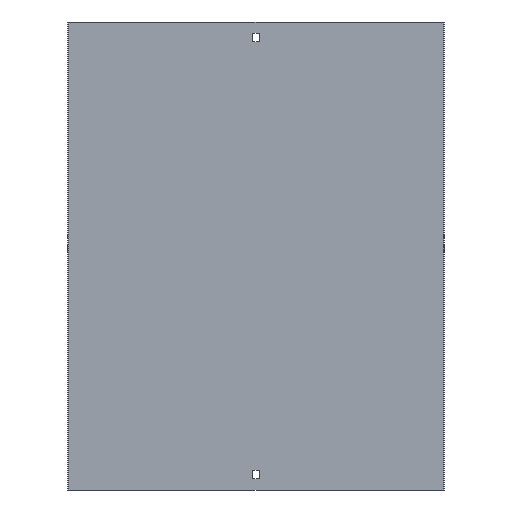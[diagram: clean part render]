
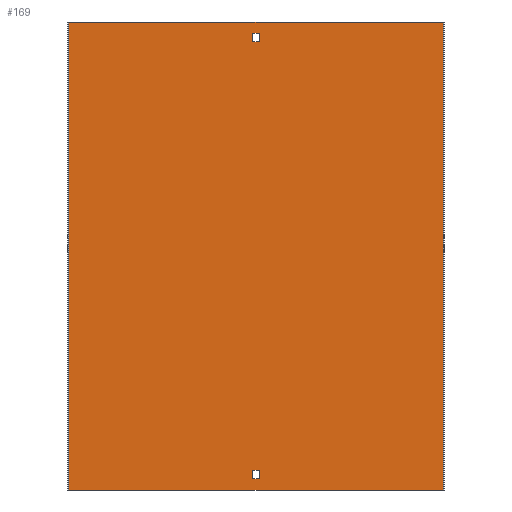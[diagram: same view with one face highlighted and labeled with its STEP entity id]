
A CAD part, front view. The second image highlights one B-rep face of the part: STEP entity #169.
In plain terms, the highlighted planar face has unit normal (0, -1, 0).
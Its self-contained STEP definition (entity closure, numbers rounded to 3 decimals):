
#3 = ORIENTED_EDGE ( 'NONE', *, *, #318, .T. ) ;
#4 = DIRECTION ( 'NONE',  ( 1., 0., 0. ) ) ;
#21 = FACE_BOUND ( 'NONE', #460, .T. ) ;
#23 = EDGE_CURVE ( 'NONE', #506, #373, #124, .T. ) ;
#25 = PLANE ( 'NONE',  #134 ) ;
#31 = CARTESIAN_POINT ( 'NONE',  ( -3.25, -1., 238. ) ) ;
#39 = VECTOR ( 'NONE', #105, 1000. ) ;
#43 = VERTEX_POINT ( 'NONE', #31 ) ;
#47 = ORIENTED_EDGE ( 'NONE', *, *, #23, .F. ) ;
#50 = ORIENTED_EDGE ( 'NONE', *, *, #522, .F. ) ;
#58 = ORIENTED_EDGE ( 'NONE', *, *, #408, .F. ) ;
#59 = CARTESIAN_POINT ( 'NONE',  ( -201., -1., 250. ) ) ;
#61 = EDGE_LOOP ( 'NONE', ( #50, #132, #143, #223 ) ) ;
#67 = VECTOR ( 'NONE', #4, 1000. ) ;
#69 = DIRECTION ( 'NONE',  ( -1., 0., 0. ) ) ;
#74 = ORIENTED_EDGE ( 'NONE', *, *, #461, .T. ) ;
#89 = VERTEX_POINT ( 'NONE', #481 ) ;
#97 = EDGE_CURVE ( 'NONE', #470, #43, #155, .T. ) ;
#101 = FACE_OUTER_BOUND ( 'NONE', #157, .T. ) ;
#105 = DIRECTION ( 'NONE',  ( 0., 0., -1. ) ) ;
#110 = CARTESIAN_POINT ( 'NONE',  ( -200., -1., 250. ) ) ;
#116 = VERTEX_POINT ( 'NONE', #536 ) ;
#117 = CARTESIAN_POINT ( 'NONE',  ( -201., -1., -229. ) ) ;
#124 = LINE ( 'NONE', #149, #191 ) ;
#132 = ORIENTED_EDGE ( 'NONE', *, *, #97, .F. ) ;
#134 = AXIS2_PLACEMENT_3D ( 'NONE', #59, #282, #468 ) ;
#143 = ORIENTED_EDGE ( 'NONE', *, *, #549, .F. ) ;
#149 = CARTESIAN_POINT ( 'NONE',  ( 200., -1., 250. ) ) ;
#150 = VECTOR ( 'NONE', #412, 1000. ) ;
#155 = LINE ( 'NONE', #585, #238 ) ;
#157 = EDGE_LOOP ( 'NONE', ( #58, #47, #3, #327 ) ) ;
#162 = VECTOR ( 'NONE', #542, 1000. ) ;
#166 = EDGE_CURVE ( 'NONE', #267, #116, #269, .T. ) ;
#169 = ADVANCED_FACE ( 'NONE', ( #473, #101, #21 ), #25, .T. ) ;
#170 = LINE ( 'NONE', #348, #162 ) ;
#176 = LINE ( 'NONE', #358, #494 ) ;
#182 = DIRECTION ( 'NONE',  ( 0., 0., -1. ) ) ;
#184 = LINE ( 'NONE', #279, #150 ) ;
#187 = LINE ( 'NONE', #406, #277 ) ;
#188 = VERTEX_POINT ( 'NONE', #110 ) ;
#191 = VECTOR ( 'NONE', #337, 1000. ) ;
#198 = CARTESIAN_POINT ( 'NONE',  ( -200., -1., -250. ) ) ;
#212 = VERTEX_POINT ( 'NONE', #339 ) ;
#222 = EDGE_CURVE ( 'NONE', #89, #429, #184, .T. ) ;
#223 = ORIENTED_EDGE ( 'NONE', *, *, #166, .F. ) ;
#236 = VECTOR ( 'NONE', #577, 1000. ) ;
#238 = VECTOR ( 'NONE', #430, 1000. ) ;
#239 = LINE ( 'NONE', #346, #39 ) ;
#240 = LINE ( 'NONE', #245, #381 ) ;
#245 = CARTESIAN_POINT ( 'NONE',  ( -201., -1., 250. ) ) ;
#247 = DIRECTION ( 'NONE',  ( 1., 0., 0. ) ) ;
#267 = VERTEX_POINT ( 'NONE', #573 ) ;
#269 = LINE ( 'NONE', #458, #67 ) ;
#277 = VECTOR ( 'NONE', #182, 1000. ) ;
#279 = CARTESIAN_POINT ( 'NONE',  ( -3.25, -1., 250. ) ) ;
#282 = DIRECTION ( 'NONE',  ( 0., -1., 0. ) ) ;
#283 = CARTESIAN_POINT ( 'NONE',  ( -3.25, -1., -229. ) ) ;
#285 = LINE ( 'NONE', #419, #236 ) ;
#307 = VERTEX_POINT ( 'NONE', #336 ) ;
#318 = EDGE_CURVE ( 'NONE', #506, #188, #240, .T. ) ;
#319 = CARTESIAN_POINT ( 'NONE',  ( 3.25, -1., 238. ) ) ;
#327 = ORIENTED_EDGE ( 'NONE', *, *, #372, .T. ) ;
#328 = CARTESIAN_POINT ( 'NONE',  ( 200., -1., 250. ) ) ;
#336 = CARTESIAN_POINT ( 'NONE',  ( 3.25, -1., -238. ) ) ;
#337 = DIRECTION ( 'NONE',  ( 0., 0., -1. ) ) ;
#339 = CARTESIAN_POINT ( 'NONE',  ( 3.25, -1., -229. ) ) ;
#346 = CARTESIAN_POINT ( 'NONE',  ( -3.25, -1., 250. ) ) ;
#348 = CARTESIAN_POINT ( 'NONE',  ( -201., -1., -250. ) ) ;
#353 = VERTEX_POINT ( 'NONE', #198 ) ;
#358 = CARTESIAN_POINT ( 'NONE',  ( -201., -1., -238. ) ) ;
#372 = EDGE_CURVE ( 'NONE', #188, #353, #492, .T. ) ;
#373 = VERTEX_POINT ( 'NONE', #451 ) ;
#381 = VECTOR ( 'NONE', #69, 1000. ) ;
#401 = ORIENTED_EDGE ( 'NONE', *, *, #222, .T. ) ;
#406 = CARTESIAN_POINT ( 'NONE',  ( 3.25, -1., 250. ) ) ;
#408 = EDGE_CURVE ( 'NONE', #373, #353, #170, .T. ) ;
#412 = DIRECTION ( 'NONE',  ( 0., 0., 1. ) ) ;
#419 = CARTESIAN_POINT ( 'NONE',  ( 3.25, -1., 250. ) ) ;
#429 = VERTEX_POINT ( 'NONE', #283 ) ;
#430 = DIRECTION ( 'NONE',  ( -1., 0., 0. ) ) ;
#436 = LINE ( 'NONE', #117, #501 ) ;
#451 = CARTESIAN_POINT ( 'NONE',  ( 200., -1., -250. ) ) ;
#458 = CARTESIAN_POINT ( 'NONE',  ( -201., -1., 229. ) ) ;
#460 = EDGE_LOOP ( 'NONE', ( #74, #401, #463, #541 ) ) ;
#461 = EDGE_CURVE ( 'NONE', #307, #89, #176, .T. ) ;
#463 = ORIENTED_EDGE ( 'NONE', *, *, #539, .T. ) ;
#468 = DIRECTION ( 'NONE',  ( 0., 0., -1. ) ) ;
#470 = VERTEX_POINT ( 'NONE', #319 ) ;
#473 = FACE_BOUND ( 'NONE', #61, .T. ) ;
#481 = CARTESIAN_POINT ( 'NONE',  ( -3.25, -1., -238. ) ) ;
#489 = EDGE_CURVE ( 'NONE', #212, #307, #187, .T. ) ;
#492 = LINE ( 'NONE', #590, #493 ) ;
#493 = VECTOR ( 'NONE', #497, 1000. ) ;
#494 = VECTOR ( 'NONE', #508, 1000. ) ;
#497 = DIRECTION ( 'NONE',  ( 0., 0., -1. ) ) ;
#501 = VECTOR ( 'NONE', #247, 1000. ) ;
#506 = VERTEX_POINT ( 'NONE', #328 ) ;
#508 = DIRECTION ( 'NONE',  ( -1., 0., 0. ) ) ;
#522 = EDGE_CURVE ( 'NONE', #43, #267, #239, .T. ) ;
#536 = CARTESIAN_POINT ( 'NONE',  ( 3.25, -1., 229. ) ) ;
#539 = EDGE_CURVE ( 'NONE', #429, #212, #436, .T. ) ;
#541 = ORIENTED_EDGE ( 'NONE', *, *, #489, .T. ) ;
#542 = DIRECTION ( 'NONE',  ( -1., 0., 0. ) ) ;
#549 = EDGE_CURVE ( 'NONE', #116, #470, #285, .T. ) ;
#573 = CARTESIAN_POINT ( 'NONE',  ( -3.25, -1., 229. ) ) ;
#577 = DIRECTION ( 'NONE',  ( 0., 0., 1. ) ) ;
#585 = CARTESIAN_POINT ( 'NONE',  ( -201., -1., 238. ) ) ;
#590 = CARTESIAN_POINT ( 'NONE',  ( -200., -1., 250. ) ) ;
